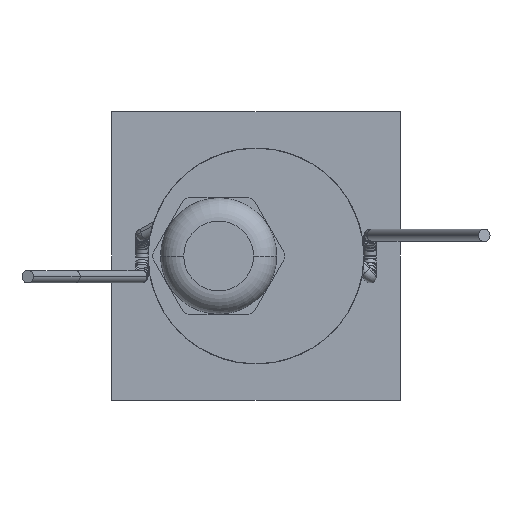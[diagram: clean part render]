
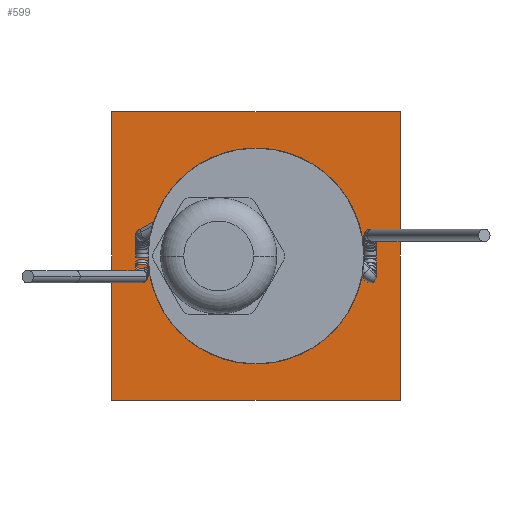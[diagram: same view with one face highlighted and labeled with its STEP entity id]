
A CAD part, front view. The second image highlights one B-rep face of the part: STEP entity #599.
In plain terms, the highlighted planar face has unit normal (0, -1, 0).
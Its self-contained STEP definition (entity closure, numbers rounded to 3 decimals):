
#414=DIRECTION('',(0.,0.,-1.));
#415=VECTOR('',#414,34.8);
#416=CARTESIAN_POINT('',(17.4,31.,17.4));
#417=LINE('',#416,#415);
#418=DIRECTION('',(-1.,0.,0.));
#419=VECTOR('',#418,34.8);
#420=CARTESIAN_POINT('',(17.4,31.,-17.4));
#421=LINE('',#420,#419);
#422=DIRECTION('',(0.,0.,1.));
#423=VECTOR('',#422,34.8);
#424=CARTESIAN_POINT('',(-17.4,31.,-17.4));
#425=LINE('',#424,#423);
#426=DIRECTION('',(1.,0.,0.));
#427=VECTOR('',#426,34.8);
#428=CARTESIAN_POINT('',(-17.4,31.,17.4));
#429=LINE('',#428,#427);
#536=CARTESIAN_POINT('',(17.4,31.,17.4));
#537=CARTESIAN_POINT('',(17.4,31.,-17.4));
#538=VERTEX_POINT('',#536);
#539=VERTEX_POINT('',#537);
#540=CARTESIAN_POINT('',(-17.4,31.,-17.4));
#541=VERTEX_POINT('',#540);
#542=CARTESIAN_POINT('',(-17.4,31.,17.4));
#543=VERTEX_POINT('',#542);
#584=CARTESIAN_POINT('',(0.,31.,0.));
#585=DIRECTION('',(0.,-1.,0.));
#586=DIRECTION('',(-1.,0.,0.));
#587=AXIS2_PLACEMENT_3D('',#584,#585,#586);
#588=PLANE('',#587);
#590=ORIENTED_EDGE('',*,*,#589,.T.);
#592=ORIENTED_EDGE('',*,*,#591,.T.);
#594=ORIENTED_EDGE('',*,*,#593,.T.);
#596=ORIENTED_EDGE('',*,*,#595,.T.);
#597=EDGE_LOOP('',(#590,#592,#594,#596));
#598=FACE_OUTER_BOUND('',#597,.F.);
#599=ADVANCED_FACE('',(#598),#588,.T.);
#589=EDGE_CURVE('',#538,#539,#417,.T.);
#591=EDGE_CURVE('',#539,#541,#421,.T.);
#593=EDGE_CURVE('',#541,#543,#425,.T.);
#595=EDGE_CURVE('',#543,#538,#429,.T.);
